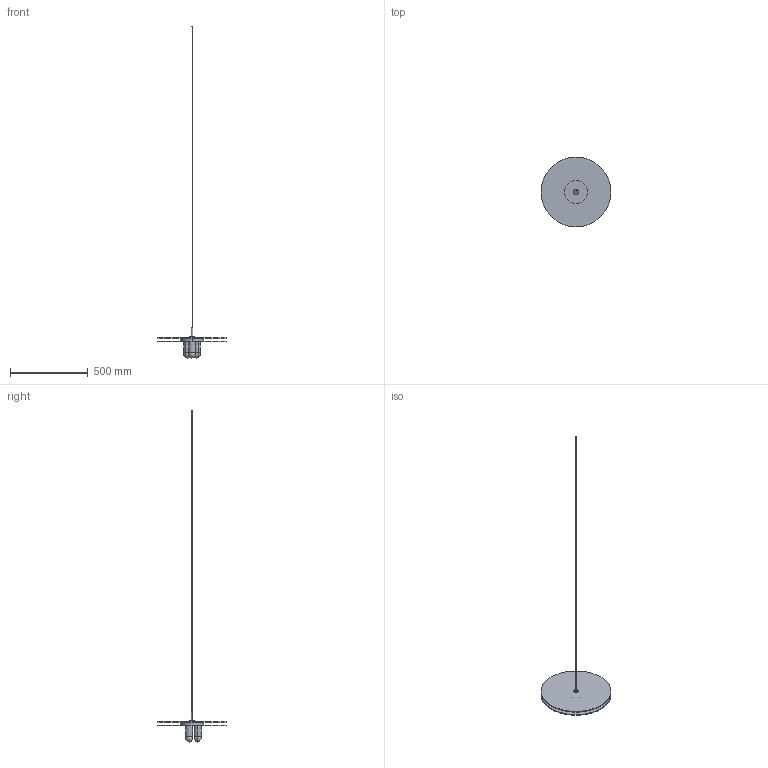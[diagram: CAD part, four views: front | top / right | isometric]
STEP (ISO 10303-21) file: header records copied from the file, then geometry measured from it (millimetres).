
FILE_DESCRIPTION(/* description */ (''),/* implementation_level */ '2;1');
FILE_NAME(/* name */ 'ILKW_B-DAY45_Pendant_3D',/* time_stamp */ '2026-08-28T17:01:53+09:00',/* author */ (''),/* organization */ (''),/* preprocessor_version */ 'ST-DEVELOPER v19.2',/* originating_system */ 'Rhino 8.21',/* authorisation */ '');
FILE_SCHEMA (('CONFIG_CONTROL_DESIGN'));
Length unit declared in the file: millimetre
Products named in the file (1): Document
Bounding box: 450 x 450 x 2135.24 mm (x, y, z)
Volume: 2453214.4 mm3; surface area: 706067.7 mm2
Topology: 2 solids, 2 shells, 35 faces, 72 edges, 45 vertices
Faces by surface type: cylinder 18, plane 11, bspline 6
Entity records: 1195 total; most frequent: CARTESIAN_POINT 406, ORIENTED_EDGE 132, DIRECTION 129, AXIS2_PLACEMENT_3D 79, EDGE_CURVE 66, TRIMMED_CURVE 48, CIRCLE 48, EDGE_LOOP 45
